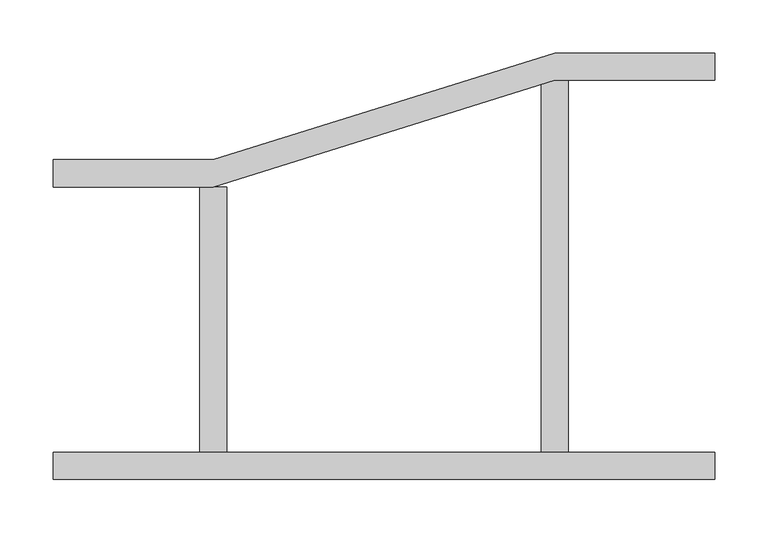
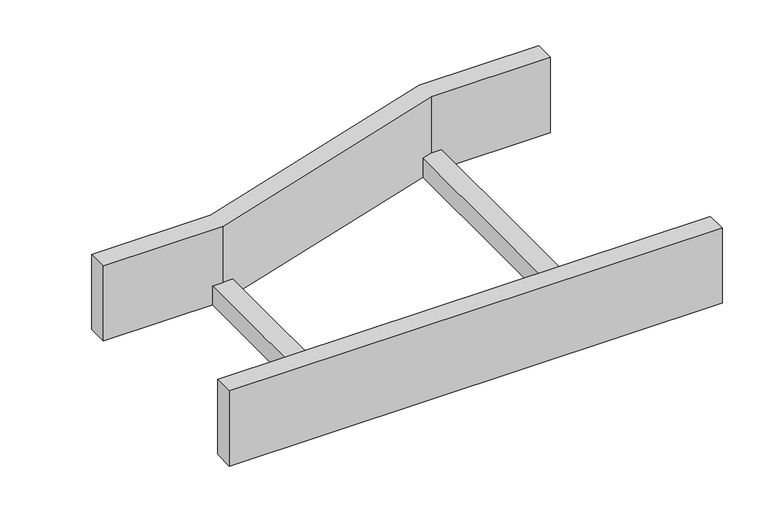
"""IFC4 building model written with IfcOpenShell, lengths in millimetres: cable carrier fitting geometry, BAKS_LDLS_RED_Straight reducer_RDS : R(S/L/P)DSC_H100."""

from ifc_helpers import new_model, si_unit, frame, origin, place, context, project, spatial, polyline, outline, extrude, source, transform, mapped, element, save


def cable_carrier_fitting_566616c6(model_context):
    return source(origin(), model_context, "Body", "SweptSolid", [
        extrude(outline(polyline([(0.0, -150.0), (0.0, -124.6), (620.0, -124.6), (620.0, -150.0), (0.0, -150.0)])), frame((0.0, 0.0, -50.0), z_axis=(0.0, 0.0, 1.0), x_axis=(1.0, 0.0, 0.0)), (0.0, 0.0, 1.0), 100.0),
        extrude(outline(polyline([(0.0, 124.6), (0.0, 150.0), (150.0, 150.0), (470.0, 250.0), (620.0, 250.0), (620.0, 224.6), (470.0, 224.6), (150.0, 124.6), (0.0, 124.6)])), frame((0.0, 0.0, -50.0), z_axis=(0.0, 0.0, 1.0), x_axis=(1.0, 0.0, 0.0)), (0.0, 0.0, 1.0), 100.0),
        extrude(outline(polyline([(457.3, 224.6), (482.7, 224.6), (482.7, -124.6), (457.3, -124.6), (457.3, 224.6)])), frame((0.0, 0.0, -50.0), z_axis=(0.0, 0.0, 1.0), x_axis=(1.0, 0.0, 0.0)), (0.0, 0.0, 1.0), 25.4),
        extrude(outline(polyline([(137.3, 124.6), (162.7, 124.6), (162.7, -124.6), (137.3, -124.6), (137.3, 124.6)])), frame((0.0, 0.0, -50.0), z_axis=(0.0, 0.0, 1.0), x_axis=(1.0, 0.0, 0.0)), (0.0, 0.0, 1.0), 25.4),
    ])


if __name__ == "__main__":
    model = new_model("IFC4")
    model_context = context("Model", 3, world=origin())
    ifc_project = project(units=[si_unit("LENGTHUNIT", "METRE", prefix="MILLI")], contexts=[model_context])
    site = spatial("IfcSite", under=ifc_project)
    building = spatial("IfcBuilding", under=site)
    placement = place(None, origin())
    cable_carrier_fitting_shape = cable_carrier_fitting_566616c6(model_context)
    element("IfcCableCarrierFitting", 1, ObjectType="BAKS_LDLS_RED_Straight reducer_RDS : R(S/L/P)DSC_H100", at=placement, inside=building, context=model_context, shape_type="MappedRepresentation", body=[
        mapped(cable_carrier_fitting_shape, transform((0.0, 0.0, 0.0), x_axis=(1.0, 0.0, 0.0), y_axis=(0.0, 1.0, 0.0), z_axis=(0.0, 0.0, 1.0))),
    ])
    save(model, "model.ifc")
